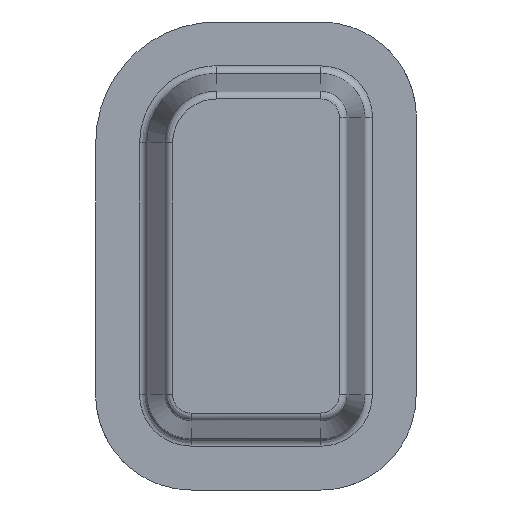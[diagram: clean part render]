
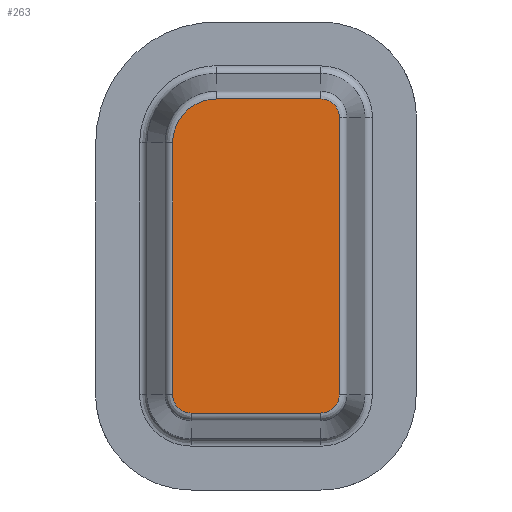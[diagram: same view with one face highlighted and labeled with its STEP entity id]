
A CAD part, front view. The second image highlights one B-rep face of the part: STEP entity #263.
In plain terms, the highlighted planar face has unit normal (0, -1, 0).
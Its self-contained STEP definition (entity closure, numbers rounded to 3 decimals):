
#144=CARTESIAN_POINT('Axis2P3D Location',(36.58,0.,63.42)) ;
#149=CARTESIAN_POINT('Line Origine',(2.749,0.,59.5)) ;
#153=CARTESIAN_POINT('Vertex',(2.749,0.,109.)) ;
#155=CARTESIAN_POINT('Vertex',(2.749,0.,10.)) ;
#159=CARTESIAN_POINT('Control Point',(2.749,0.,10.)) ;
#160=CARTESIAN_POINT('Control Point',(2.749,0.,9.039)) ;
#161=CARTESIAN_POINT('Control Point',(2.908,0.,8.078)) ;
#162=CARTESIAN_POINT('Control Point',(3.226,0.,7.153)) ;
#163=CARTESIAN_POINT('Control Point',(4.156,0.,5.444)) ;
#164=CARTESIAN_POINT('Control Point',(5.587,0.,4.126)) ;
#165=CARTESIAN_POINT('Control Point',(6.406,0.,3.592)) ;
#166=CARTESIAN_POINT('Control Point',(7.614,0.,3.065)) ;
#167=CARTESIAN_POINT('Control Point',(8.895,0.,2.822)) ;
#168=CARTESIAN_POINT('Control Point',(9.234,0.,2.777)) ;
#169=CARTESIAN_POINT('Control Point',(9.591,0.,2.752)) ;
#170=CARTESIAN_POINT('Control Point',(9.949,0.,2.749)) ;
#171=CARTESIAN_POINT('Control Point',(9.966,0.,2.749)) ;
#172=CARTESIAN_POINT('Control Point',(9.983,0.,2.749)) ;
#173=CARTESIAN_POINT('Control Point',(10.,0.,2.749)) ;
#174=CARTESIAN_POINT('Vertex',(10.,0.,2.749)) ;
#177=CARTESIAN_POINT('Line Origine',(35.5,0.,2.749)) ;
#181=CARTESIAN_POINT('Vertex',(61.,0.,2.749)) ;
#185=CARTESIAN_POINT('Control Point',(61.,0.,2.749)) ;
#186=CARTESIAN_POINT('Control Point',(61.961,0.,2.749)) ;
#187=CARTESIAN_POINT('Control Point',(62.922,0.,2.908)) ;
#188=CARTESIAN_POINT('Control Point',(63.847,0.,3.226)) ;
#189=CARTESIAN_POINT('Control Point',(65.556,0.,4.156)) ;
#190=CARTESIAN_POINT('Control Point',(66.874,0.,5.587)) ;
#191=CARTESIAN_POINT('Control Point',(67.408,0.,6.406)) ;
#192=CARTESIAN_POINT('Control Point',(67.935,0.,7.614)) ;
#193=CARTESIAN_POINT('Control Point',(68.178,0.,8.895)) ;
#194=CARTESIAN_POINT('Control Point',(68.223,0.,9.234)) ;
#195=CARTESIAN_POINT('Control Point',(68.248,0.,9.591)) ;
#196=CARTESIAN_POINT('Control Point',(68.251,0.,9.949)) ;
#197=CARTESIAN_POINT('Control Point',(68.251,0.,9.966)) ;
#198=CARTESIAN_POINT('Control Point',(68.251,0.,9.983)) ;
#199=CARTESIAN_POINT('Control Point',(68.251,0.,10.)) ;
#200=CARTESIAN_POINT('Vertex',(68.251,0.,10.)) ;
#203=CARTESIAN_POINT('Line Origine',(68.251,0.,64.5)) ;
#207=CARTESIAN_POINT('Vertex',(68.251,0.,119.)) ;
#211=CARTESIAN_POINT('Control Point',(68.251,0.,119.)) ;
#212=CARTESIAN_POINT('Control Point',(68.251,0.,119.961)) ;
#213=CARTESIAN_POINT('Control Point',(68.092,0.,120.922)) ;
#214=CARTESIAN_POINT('Control Point',(67.774,0.,121.847)) ;
#215=CARTESIAN_POINT('Control Point',(66.844,0.,123.556)) ;
#216=CARTESIAN_POINT('Control Point',(65.413,0.,124.874)) ;
#217=CARTESIAN_POINT('Control Point',(64.594,0.,125.408)) ;
#218=CARTESIAN_POINT('Control Point',(63.386,0.,125.935)) ;
#219=CARTESIAN_POINT('Control Point',(62.105,0.,126.178)) ;
#220=CARTESIAN_POINT('Control Point',(61.766,0.,126.223)) ;
#221=CARTESIAN_POINT('Control Point',(61.409,0.,126.248)) ;
#222=CARTESIAN_POINT('Control Point',(61.051,0.,126.251)) ;
#223=CARTESIAN_POINT('Control Point',(61.034,0.,126.251)) ;
#224=CARTESIAN_POINT('Control Point',(61.017,0.,126.251)) ;
#225=CARTESIAN_POINT('Control Point',(61.,0.,126.251)) ;
#226=CARTESIAN_POINT('Vertex',(61.,0.,126.251)) ;
#229=CARTESIAN_POINT('Line Origine',(40.5,0.,126.251)) ;
#233=CARTESIAN_POINT('Vertex',(20.,0.,126.251)) ;
#237=CARTESIAN_POINT('Control Point',(20.,0.,126.251)) ;
#238=CARTESIAN_POINT('Control Point',(18.077,0.,126.251)) ;
#239=CARTESIAN_POINT('Control Point',(16.154,0.,125.983)) ;
#240=CARTESIAN_POINT('Control Point',(14.282,0.,125.447)) ;
#241=CARTESIAN_POINT('Control Point',(10.737,0.,123.869)) ;
#242=CARTESIAN_POINT('Control Point',(7.758,0.,121.384)) ;
#243=CARTESIAN_POINT('Control Point',(6.452,0.,119.939)) ;
#244=CARTESIAN_POINT('Control Point',(4.494,0.,117.047)) ;
#245=CARTESIAN_POINT('Control Point',(3.314,0.,113.77)) ;
#246=CARTESIAN_POINT('Control Point',(2.954,0.,112.261)) ;
#247=CARTESIAN_POINT('Control Point',(2.762,0.,110.687)) ;
#248=CARTESIAN_POINT('Control Point',(2.749,0.,109.111)) ;
#249=CARTESIAN_POINT('Control Point',(2.749,0.,109.074)) ;
#250=CARTESIAN_POINT('Control Point',(2.749,0.,109.037)) ;
#251=CARTESIAN_POINT('Control Point',(2.749,0.,109.)) ;
#145=DIRECTION('Axis2P3D Direction',(0.,-1.,0.)) ;
#146=DIRECTION('Axis2P3D XDirection',(0.048,0.,0.999)) ;
#150=DIRECTION('Vector Direction',(0.,0.,1.)) ;
#178=DIRECTION('Vector Direction',(1.,0.,0.)) ;
#204=DIRECTION('Vector Direction',(0.,0.,1.)) ;
#230=DIRECTION('Vector Direction',(-1.,0.,0.)) ;
#147=AXIS2_PLACEMENT_3D('Plane Axis2P3D',#144,#145,#146) ;
#254=ORIENTED_EDGE('',*,*,#157,.T.) ;
#255=ORIENTED_EDGE('',*,*,#176,.T.) ;
#256=ORIENTED_EDGE('',*,*,#183,.T.) ;
#257=ORIENTED_EDGE('',*,*,#202,.T.) ;
#258=ORIENTED_EDGE('',*,*,#209,.T.) ;
#259=ORIENTED_EDGE('',*,*,#228,.T.) ;
#260=ORIENTED_EDGE('',*,*,#235,.T.) ;
#261=ORIENTED_EDGE('',*,*,#252,.T.) ;
#151=VECTOR('Line Direction',#150,1.) ;
#179=VECTOR('Line Direction',#178,1.) ;
#205=VECTOR('Line Direction',#204,1.) ;
#231=VECTOR('Line Direction',#230,1.) ;
#263=ADVANCED_FACE('base',(#262),#148,.T.) ;
#158=B_SPLINE_CURVE_WITH_KNOTS('',5,(#159,#160,#161,#162,#163,#164,#165,#166,#167,#168,#169,#170,#171,#172,#173),.UNSPECIFIED.,.F.,.U.,(6,3,3,3,6),(31.963,42.559,53.161,56.915,57.103),.UNSPECIFIED.) ;
#184=B_SPLINE_CURVE_WITH_KNOTS('',5,(#185,#186,#187,#188,#189,#190,#191,#192,#193,#194,#195,#196,#197,#198,#199),.UNSPECIFIED.,.F.,.U.,(6,3,3,3,6),(31.963,42.56,53.161,56.915,57.103),.UNSPECIFIED.) ;
#210=B_SPLINE_CURVE_WITH_KNOTS('',5,(#211,#212,#213,#214,#215,#216,#217,#218,#219,#220,#221,#222,#223,#224,#225),.UNSPECIFIED.,.F.,.U.,(6,3,3,3,6),(31.963,42.56,53.161,56.915,57.103),.UNSPECIFIED.) ;
#236=B_SPLINE_CURVE_WITH_KNOTS('',5,(#237,#238,#239,#240,#241,#242,#243,#244,#245,#246,#247,#248,#249,#250,#251),.UNSPECIFIED.,.F.,.U.,(6,3,3,3,6),(44.157,60.649,77.162,90.363,90.679),.UNSPECIFIED.) ;
#157=EDGE_CURVE('',#154,#156,#152,.F.) ;
#176=EDGE_CURVE('',#156,#175,#158,.T.) ;
#183=EDGE_CURVE('',#175,#182,#180,.T.) ;
#202=EDGE_CURVE('',#182,#201,#184,.T.) ;
#209=EDGE_CURVE('',#201,#208,#206,.T.) ;
#228=EDGE_CURVE('',#208,#227,#210,.T.) ;
#235=EDGE_CURVE('',#227,#234,#232,.T.) ;
#252=EDGE_CURVE('',#234,#154,#236,.T.) ;
#253=EDGE_LOOP('',(#254,#255,#256,#257,#258,#259,#260,#261)) ;
#262=FACE_OUTER_BOUND('',#253,.T.) ;
#152=LINE('Line',#149,#151) ;
#180=LINE('Line',#177,#179) ;
#206=LINE('Line',#203,#205) ;
#232=LINE('Line',#229,#231) ;
#148=PLANE('',#147) ;
#154=VERTEX_POINT('',#153) ;
#156=VERTEX_POINT('',#155) ;
#175=VERTEX_POINT('',#174) ;
#182=VERTEX_POINT('',#181) ;
#201=VERTEX_POINT('',#200) ;
#208=VERTEX_POINT('',#207) ;
#227=VERTEX_POINT('',#226) ;
#234=VERTEX_POINT('',#233) ;
